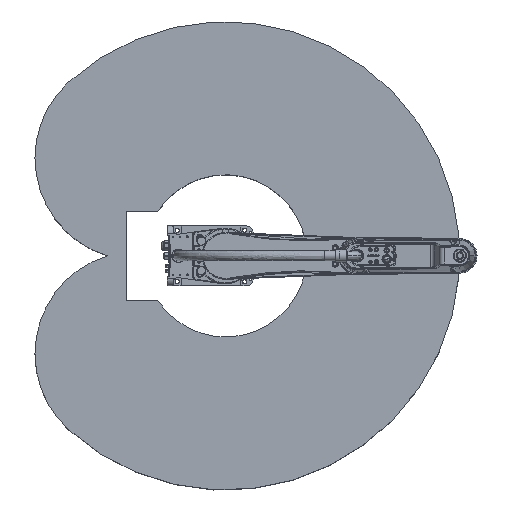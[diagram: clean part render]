
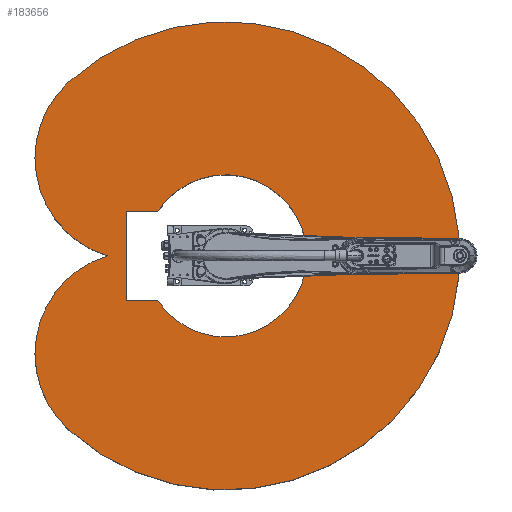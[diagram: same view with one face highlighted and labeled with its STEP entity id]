
A CAD part, top view. The second image highlights one B-rep face of the part: STEP entity #183656.
In plain terms, the highlighted planar face has unit normal (0, 0, 1) as drawn and (0, 1, 0) by its records, which use the part's own axes.
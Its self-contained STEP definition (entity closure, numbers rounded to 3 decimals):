
#529 = VECTOR ( 'NONE', #157717, 1000. ) ;
#961 = AXIS2_PLACEMENT_3D ( 'NONE', #45360, #89707, #132760 ) ;
#1483 = CARTESIAN_POINT ( 'NONE',  ( 594.516, 188., 535.304 ) ) ;
#2062 = EDGE_CURVE ( 'NONE', #38706, #104766, #35381, .T. ) ;
#2720 = EDGE_CURVE ( 'NONE', #104766, #72114, #131036, .T. ) ;
#2898 = CARTESIAN_POINT ( 'NONE',  ( 334.415, 188., 651.109 ) ) ;
#2931 = CARTESIAN_POINT ( 'NONE',  ( -334.415, 188., 301.109 ) ) ;
#4311 = PLANE ( 'NONE',  #101802 ) ;
#7078 = LINE ( 'NONE', #132537, #156413 ) ;
#8961 = ORIENTED_EDGE ( 'NONE', *, *, #37426, .T. ) ;
#10146 = ORIENTED_EDGE ( 'NONE', *, *, #187949, .F. ) ;
#13187 = DIRECTION ( 'NONE',  ( 0., 0., 1. ) ) ;
#17435 = ORIENTED_EDGE ( 'NONE', *, *, #62613, .F. ) ;
#18522 = DIRECTION ( 'NONE',  ( 0., -1., 0. ) ) ;
#19156 = ORIENTED_EDGE ( 'NONE', *, *, #2720, .F. ) ;
#19163 = DIRECTION ( 'NONE',  ( 0., 0., 1. ) ) ;
#19252 = EDGE_CURVE ( 'NONE', #42176, #182966, #163577, .T. ) ;
#20730 = VECTOR ( 'NONE', #21670, 1000. ) ;
#20864 = CIRCLE ( 'NONE', #961, 350. ) ;
#21670 = DIRECTION ( 'NONE',  ( -1., 0., 0. ) ) ;
#25771 = CARTESIAN_POINT ( 'NONE',  ( 0., 188., 0. ) ) ;
#31604 = DIRECTION ( 'NONE',  ( 0., 0., 1. ) ) ;
#32014 = DIRECTION ( 'NONE',  ( 0., 0., 1. ) ) ;
#34518 = EDGE_LOOP ( 'NONE', ( #17435, #19156, #51161, #188282, #10146 ) ) ;
#35381 = CIRCLE ( 'NONE', #140868, 350. ) ;
#35396 = ORIENTED_EDGE ( 'NONE', *, *, #94514, .T. ) ;
#37006 = VERTEX_POINT ( 'NONE', #2898 ) ;
#37426 = EDGE_CURVE ( 'NONE', #182966, #182137, #7078, .T. ) ;
#38706 = VERTEX_POINT ( 'NONE', #142158 ) ;
#42176 = VERTEX_POINT ( 'NONE', #153370 ) ;
#45360 = CARTESIAN_POINT ( 'NONE',  ( 334.415, 188., 301.109 ) ) ;
#48307 = CARTESIAN_POINT ( 'NONE',  ( -334.415, 188., 301.109 ) ) ;
#51161 = ORIENTED_EDGE ( 'NONE', *, *, #2062, .F. ) ;
#56440 = DIRECTION ( 'NONE',  ( 0., -1., 0. ) ) ;
#57122 = DIRECTION ( 'NONE',  ( 0., 0., 1. ) ) ;
#59122 = FACE_OUTER_BOUND ( 'NONE', #34518, .T. ) ;
#60981 = DIRECTION ( 'NONE',  ( 0., -1., 0. ) ) ;
#62613 = EDGE_CURVE ( 'NONE', #72114, #176085, #111844, .T. ) ;
#63007 = DIRECTION ( 'NONE',  ( 0., 1., 0. ) ) ;
#69346 = EDGE_CURVE ( 'NONE', #37006, #38706, #179268, .T. ) ;
#71504 = DIRECTION ( 'NONE',  ( 0., -1., 0. ) ) ;
#72114 = VERTEX_POINT ( 'NONE', #163783 ) ;
#75572 = EDGE_CURVE ( 'NONE', #182137, #161940, #104836, .T. ) ;
#78956 = DIRECTION ( 'NONE',  ( 0., -1., 0. ) ) ;
#81755 = CARTESIAN_POINT ( 'NONE',  ( 152.5, 188., 337.5 ) ) ;
#82137 = CARTESIAN_POINT ( 'NONE',  ( -152.5, 188., 337.5 ) ) ;
#82559 = CARTESIAN_POINT ( 'NONE',  ( 152.5, 188., 231.362 ) ) ;
#87564 = AXIS2_PLACEMENT_3D ( 'NONE', #192181, #71504, #57122 ) ;
#89238 = LINE ( 'NONE', #82137, #529 ) ;
#89707 = DIRECTION ( 'NONE',  ( 0., -1., 0. ) ) ;
#94514 = EDGE_CURVE ( 'NONE', #161940, #42176, #89238, .T. ) ;
#101802 = AXIS2_PLACEMENT_3D ( 'NONE', #152972, #63007, #166757 ) ;
#104766 = VERTEX_POINT ( 'NONE', #151957 ) ;
#104836 = LINE ( 'NONE', #81755, #20730 ) ;
#111844 = CIRCLE ( 'NONE', #177684, 800. ) ;
#114515 = CARTESIAN_POINT ( 'NONE',  ( -152.5, 188., 337.5 ) ) ;
#115764 = ORIENTED_EDGE ( 'NONE', *, *, #19252, .T. ) ;
#126324 = AXIS2_PLACEMENT_3D ( 'NONE', #135339, #60981, #31604 ) ;
#130132 = DIRECTION ( 'NONE',  ( 0., 0., 1. ) ) ;
#131036 = CIRCLE ( 'NONE', #178420, 350. ) ;
#132537 = CARTESIAN_POINT ( 'NONE',  ( 152.5, 188., 231.362 ) ) ;
#132760 = DIRECTION ( 'NONE',  ( 0., 0., 1. ) ) ;
#135339 = CARTESIAN_POINT ( 'NONE',  ( 0., 188., 0. ) ) ;
#140868 = AXIS2_PLACEMENT_3D ( 'NONE', #2931, #18522, #19163 ) ;
#142158 = CARTESIAN_POINT ( 'NONE',  ( 0., 188., 404.387 ) ) ;
#151957 = CARTESIAN_POINT ( 'NONE',  ( -334.415, 188., 651.109 ) ) ;
#152972 = CARTESIAN_POINT ( 'NONE',  ( 167.208, 188., 150.554 ) ) ;
#153370 = CARTESIAN_POINT ( 'NONE',  ( -152.5, 188., 231.362 ) ) ;
#156413 = VECTOR ( 'NONE', #13187, 1000. ) ;
#157717 = DIRECTION ( 'NONE',  ( 0., 0., -1. ) ) ;
#161843 = FACE_BOUND ( 'NONE', #166320, .T. ) ;
#161940 = VERTEX_POINT ( 'NONE', #114515 ) ;
#163577 = CIRCLE ( 'NONE', #126324, 277.1 ) ;
#163783 = CARTESIAN_POINT ( 'NONE',  ( -594.516, 188., 535.304 ) ) ;
#166320 = EDGE_LOOP ( 'NONE', ( #115764, #8961, #190382, #35396 ) ) ;
#166757 = DIRECTION ( 'NONE',  ( 0., 0., 1. ) ) ;
#176085 = VERTEX_POINT ( 'NONE', #1483 ) ;
#177684 = AXIS2_PLACEMENT_3D ( 'NONE', #25771, #56440, #130132 ) ;
#178420 = AXIS2_PLACEMENT_3D ( 'NONE', #48307, #78956, #32014 ) ;
#179268 = CIRCLE ( 'NONE', #87564, 350. ) ;
#180640 = CARTESIAN_POINT ( 'NONE',  ( 152.5, 188., 337.5 ) ) ;
#182137 = VERTEX_POINT ( 'NONE', #180640 ) ;
#182966 = VERTEX_POINT ( 'NONE', #82559 ) ;
#183656 = ADVANCED_FACE ( 'NONE', ( #59122, #161843 ), #4311, .T. ) ;
#187949 = EDGE_CURVE ( 'NONE', #176085, #37006, #20864, .T. ) ;
#188282 = ORIENTED_EDGE ( 'NONE', *, *, #69346, .F. ) ;
#190382 = ORIENTED_EDGE ( 'NONE', *, *, #75572, .T. ) ;
#192181 = CARTESIAN_POINT ( 'NONE',  ( 334.415, 188., 301.109 ) ) ;
